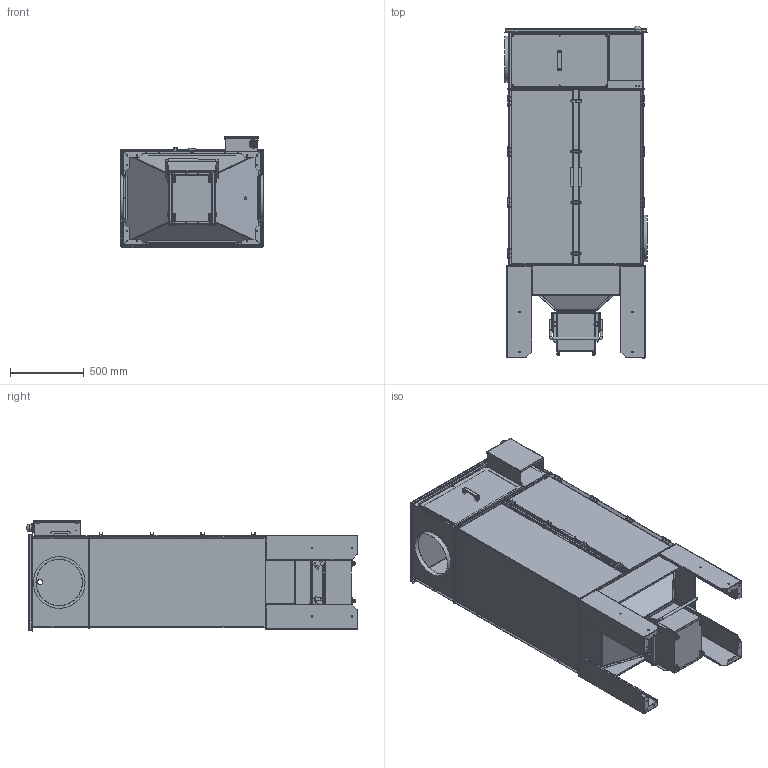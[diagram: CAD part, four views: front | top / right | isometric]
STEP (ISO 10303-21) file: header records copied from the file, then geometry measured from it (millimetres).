
FILE_DESCRIPTION(/* description */ (''),/* implementation_level */ '2;1');
FILE_NAME(/* name */ '15-493 Geofilter GFB2 W3 6-2 v6.step',/* time_stamp */ '2023-11-29T09:12:16+01:00',/* author */ (''),/* organization */ (''),/* preprocessor_version */ 'ST-DEVELOPER v20',/* originating_system */ 'Autodesk Translation Framework v12.14.0.127',/* authorisation */ '');
FILE_SCHEMA (('AUTOMOTIVE_DESIGN { 1 0 10303 214 3 1 1 }'));
Products named in the file (2): (Unsaved); Component3
Assembly tree (1 placements, depth 2):
  (Unsaved)
    Component3
Bounding box: 964.75 x 2246.67 x 747.7 mm (x, y, z)
Volume: 16156538 mm3; surface area: 18226457.8 mm2
Topology: 1 solids, 1 shells, 5269 faces, 15004 edges, 9756 vertices
Faces by surface type: plane 3503, cylinder 1434, bspline 147, cone 114, torus 68, sphere 3
Full cylindrical faces by diameter (mm): 1 x1, 2.729 x2, 3 x12, 3.3 x10, 4.5 x6, 5 x391, 5.1 x48, 5.724 x8, 6 x32, 7 x13, 8 x12, 8.6 x8, 9 x18, 10 x8, 11 x2, 12 x4, 17 x5, 18 x4, 20 x8, 21 x8, 26.6 x4, 30.611 x1, 36 x1, 37 x2, 38 x1, 55 x1, 312.2 x2, 314 x2, 350 x2
Entity records: 183874 total; most frequent: CARTESIAN_POINT 43895, ORIENTED_EDGE 30004, DIRECTION 28590, EDGE_CURVE 15002, VERTEX_POINT 9756, AXIS2_PLACEMENT_3D 9652, LINE 9286, VECTOR 9286
